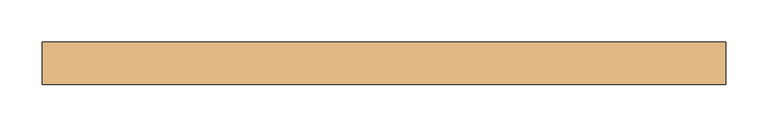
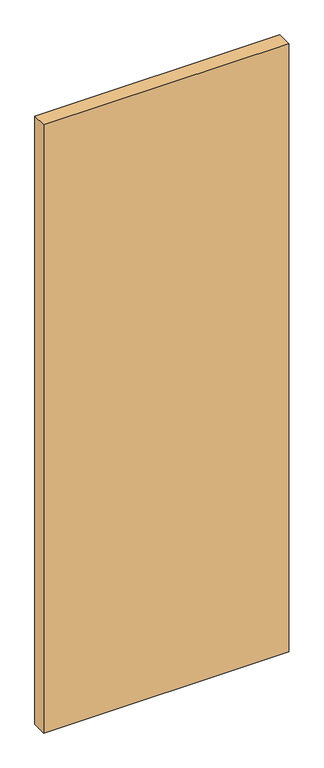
"""IFC4 building model written with IfcOpenShell, lengths in millimetres: door geometry, Planitar - Swap_Flush Panel : Planitar - Swap_Flush Panel."""

from ifc_helpers import new_model, si_unit, origin, origin_with_axes, place, context, project, spatial, polyline, outline, extrude, source, transform, mapped, element, save


def door_cb6dd7f7(model_context):
    return source(origin(), model_context, "Body", "SweptSolid", [
        extrude(outline(polyline([(406.4, -25.4), (-406.4, -25.4), (-406.4, 25.4), (406.4, 25.4), (406.4, -25.4)])), origin_with_axes(), (0.0, 0.0, 1.0), 2133.6),
    ])


if __name__ == "__main__":
    model = new_model("IFC4")
    model_context = context("Model", 3, world=origin())
    ifc_project = project(units=[si_unit("LENGTHUNIT", "METRE", prefix="MILLI")], contexts=[model_context])
    site = spatial("IfcSite", under=ifc_project)
    building = spatial("IfcBuilding", under=site)
    placement = place(None, origin())
    door_shape = door_cb6dd7f7(model_context)
    element("IfcDoor", 1, ObjectType="Planitar - Swap_Flush Panel : Planitar - Swap_Flush Panel", at=placement, inside=building, context=model_context, shape_type="MappedRepresentation", body=[
        mapped(door_shape, transform((0.0, 0.0, 0.0), x_axis=(1.0, 0.0, 0.0), y_axis=(0.0, 1.0, 0.0), z_axis=(0.0, 0.0, 1.0))),
    ])
    save(model, "model.ifc")
